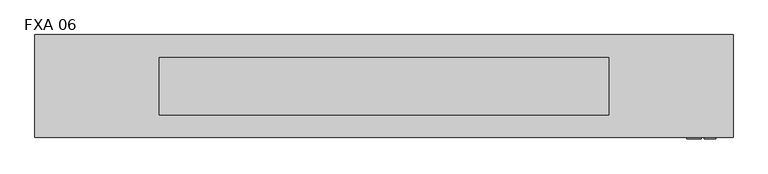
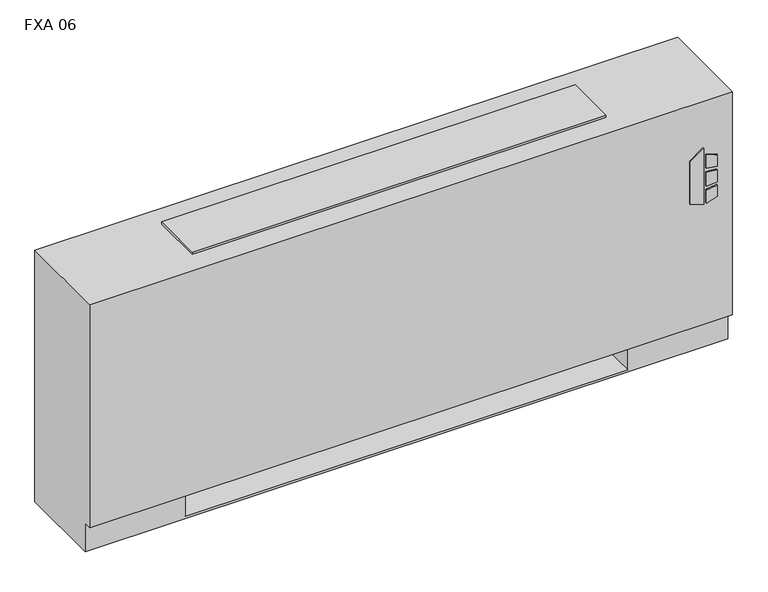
"""IFC4 building model written with IfcOpenShell, lengths in millimetres: proxy geometry, Vertical_Fan_Coil_Unit_-_FXA_-_IEC_-_2-Pipe_TS-FR_RH_2022 : FXA 06."""

from ifc_helpers import new_model, si_unit, point, frame, frame_2d, origin, place, context, project, spatial, polyline, circle_curve, trimmed, segment, composite_curve, outline, extrude, source, transform, mapped, element, save
from ifc_brep_helpers import plane_surface, revolved_surface, advanced_brep


def fxa_06_6068cdc9(model_context):
    return source(origin(), model_context, "Body", "SolidModel", [
        extrude(outline(polyline([(391.6086829, 823.9868862), (381.6606126, 856.1602728), (523.831537, 856.1602728), (500.8095309, 823.9868862), (391.6086829, 823.9868862)])), frame((0.0, 12.7, 0.0), z_axis=(0.0, 1.0, 0.0), x_axis=(0.0, 0.0, 1.0)), (0.0, 0.0, 1.0), 3.175),
        extrude(outline(polyline([(470.6079683, 862.9186058), (467.4055757, 889.0), (496.6344168, 889.0), (504.6988318, 862.9186058), (470.6079683, 862.9186058)])), frame((0.0, 12.7, 0.0), z_axis=(0.0, 1.0, 0.0), x_axis=(0.0, 0.0, 1.0)), (0.0, 0.0, 1.0), 3.175),
        extrude(outline(polyline([(418.7444414, 889.0), (415.0789404, 862.9186058), (381.6606126, 862.9186058), (390.2948498, 889.0), (418.7444414, 889.0)])), frame((0.0, 12.7, 0.0), z_axis=(0.0, 1.0, 0.0), x_axis=(0.0, 0.0, 1.0)), (0.0, 0.0, 1.0), 3.175),
        extrude(outline(polyline([(458.0596028, 889.0), (460.3414292, 862.9186058), (424.4038806, 862.9186058), (427.1451456, 889.0), (458.0596028, 889.0)])), frame((0.0, 12.7, 0.0), z_axis=(0.0, 1.0, 0.0), x_axis=(0.0, 0.0, 1.0)), (0.0, 0.0, 1.0), 3.175),
        extrude(outline(polyline([(-501.65, 81.534), (-501.65, 223.266), (-381.0, 223.266), (-381.0, 81.534), (-501.65, 81.534)])), frame((0.0, 0.0, 327.025), z_axis=(0.0, 0.0, 1.0), x_axis=(1.0, 0.0, 0.0)), (0.0, 0.0, 1.0), 260.35),
        extrude(outline(composite_curve([segment(trimmed(circle_curve(frame_2d((749.3, 130.175)), 9.525), [point((739.775, 130.175))], [point((758.825, 130.175))], False, "CARTESIAN"), True, "CONTINUOUS"), segment(trimmed(circle_curve(frame_2d((749.3, 130.175)), 9.525), [point((758.825, 130.175))], [point((739.775, 130.175))], False, "CARTESIAN"), True, "CONTINUOUS")], self_intersect=False)), frame((0.0, 0.0, 101.6), z_axis=(0.0, 0.0, 1.0), x_axis=(1.0, 0.0, 0.0)), (0.0, 0.0, 1.0), 25.4),
        extrude(outline(polyline([(844.55, 196.85), (844.55, 63.5), (685.8, 63.5), (685.8, 196.85), (844.55, 196.85)])), frame((0.0, 0.0, 127.0), z_axis=(0.0, 0.0, 1.0), x_axis=(1.0, 0.0, 0.0)), (0.0, 0.0, 1.0), 50.8),
        extrude(outline(composite_curve([segment(trimmed(circle_curve(frame_2d((93.1926, 485.5972)), 7.9375), [point((93.1926, 493.5347))], [point((93.1926, 477.6597))], False, "CARTESIAN"), True, "CONTINUOUS"), segment(trimmed(circle_curve(frame_2d((93.1926, 485.5972)), 7.9375), [point((93.1926, 477.6597))], [point((93.1926, 493.5347))], False, "CARTESIAN"), True, "CONTINUOUS")], self_intersect=False)), frame((685.8, 0.0, 0.0), z_axis=(1.0, 0.0, 0.0), x_axis=(0.0, 1.0, 0.0)), (0.0, 0.0, 1.0), 50.8),
        extrude(outline(composite_curve([segment(trimmed(circle_curve(frame_2d((141.3002, 458.9526)), 7.9375), [point((141.3002, 466.8901))], [point((141.3002, 451.0151))], False, "CARTESIAN"), True, "CONTINUOUS"), segment(trimmed(circle_curve(frame_2d((141.3002, 458.9526)), 7.9375), [point((141.3002, 451.0151))], [point((141.3002, 466.8901))], False, "CARTESIAN"), True, "CONTINUOUS")], self_intersect=False)), frame((685.8, 0.0, 0.0), z_axis=(1.0, 0.0, 0.0), x_axis=(0.0, 1.0, 0.0)), (0.0, 0.0, 1.0), 50.8),
        advanced_brep(
        [(927.1, 244.475, 641.35), (-622.3, 244.475, 641.35), (-622.3, 15.875, 641.35), (927.1, 15.875, 641.35), (-622.3, 244.475, 0.0), (927.1, 244.475, 0.0), (927.1, 34.925, 0.0), (-622.3, 34.925, 0.0), (685.8, 244.475, 73.025), (914.4, 244.475, 73.025), (914.4, 244.475, 628.65), (685.8, 244.475, 628.65), (685.8, 244.475, 414.8650565), (714.375, 244.475, 414.8650565), (714.375, 244.475, 385.2349435), (685.8, 244.475, 385.2349435), (685.8, 244.475, 287.3375), (714.375, 244.475, 287.3375), (714.375, 244.475, 258.7625), (685.8, 244.475, 258.7625), (685.8, 244.475, 141.2875), (714.375, 244.475, 141.2875), (714.375, 244.475, 112.7125), (685.8, 244.475, 112.7125), (-381.0, 244.475, 628.65), (-609.6, 244.475, 628.65), (-609.6, 244.475, 73.025), (-381.0, 244.475, 73.025), (-381.0, 244.475, 112.7125), (-409.575, 244.475, 112.7125), (-409.575, 244.475, 141.2875), (-381.0, 244.475, 141.2875), (-381.0, 244.475, 258.7625), (-409.575, 244.475, 258.7625), (-409.575, 244.475, 287.3375), (-381.0, 244.475, 287.3375), (-381.0, 244.475, 385.2349435), (-409.575, 244.475, 385.2349435), (-409.575, 244.475, 414.8650565), (-381.0, 244.475, 414.8650565), (704.0626, 244.475, 127.0), (692.9374, 244.475, 127.0), (704.0626, 244.475, 400.05), (692.9374, 244.475, 400.05), (704.0626, 244.475, 273.05), (692.9374, 244.475, 273.05), (-388.1374, 244.475, 127.0), (-399.2626, 244.475, 127.0), (-388.1374, 244.475, 273.05), (-399.2626, 244.475, 273.05), (-388.1374, 244.475, 400.05), (-399.2626, 244.475, 400.05), (-622.3, 34.925, 73.025), (-622.3, 15.875, 73.025), (927.1, 15.875, 73.025), (927.1, 34.925, 73.025), (-381.0, 34.925, 73.025), (-381.0, 219.075, 73.025), (685.8, 219.075, 73.025), (685.8, 34.925, 73.025), (685.8, 34.925, 6.35), (-381.0, 34.925, 6.35), (685.8, 41.275, 628.65), (914.4, 41.275, 628.65), (914.4, 41.275, 73.025), (685.8, 41.275, 73.025), (-381.0, 41.275, 628.65), (-381.0, 41.275, 73.025), (-609.6, 41.275, 73.025), (-609.6, 41.275, 628.65), (685.8, 219.075, 73.025), (685.8, 238.125, 112.7125), (685.8, 238.125, 141.2875), (685.8, 238.125, 258.7625), (685.8, 238.125, 287.3375), (685.8, 238.125, 385.2349435), (685.8, 238.125, 414.8650565), (-381.0, 219.075, 73.025), (-381.0, 238.125, 414.8650565), (-381.0, 238.125, 385.2349435), (-381.0, 238.125, 287.3375), (-381.0, 238.125, 258.7625), (-381.0, 238.125, 141.2875), (-381.0, 238.125, 112.7125), (-381.0, 219.075, 6.35), (685.8, 219.075, 6.35), (714.375, 238.125, 112.7125), (714.375, 238.125, 141.2875), (692.9374, 238.125, 127.0), (704.0626, 238.125, 127.0), (714.375, 238.125, 258.7625), (714.375, 238.125, 287.3375), (692.9374, 238.125, 273.05), (704.0626, 238.125, 273.05), (714.375, 238.125, 385.2349435), (714.375, 238.125, 414.8650565), (692.9374, 238.125, 400.05), (704.0626, 238.125, 400.05), (-409.575, 238.125, 141.2875), (-409.575, 238.125, 112.7125), (-399.2626, 238.125, 127.0), (-388.1374, 238.125, 127.0), (-409.575, 238.125, 287.3375), (-409.575, 238.125, 258.7625), (-399.2626, 238.125, 273.05), (-388.1374, 238.125, 273.05), (-409.575, 238.125, 414.8650565), (-409.575, 238.125, 385.2349435), (-399.2626, 238.125, 400.05), (-388.1374, 238.125, 400.05)],
        [
            (0, 1),
            (1, 2),
            (2, 3),
            (3, 0),
            (4, 5),
            (5, 6),
            (6, 7),
            (7, 4),
            (0, 5),
            (4, 1),
            (8, 9),
            (9, 10),
            (10, 11),
            (11, 12),
            (12, 13),
            (13, 14),
            (14, 15),
            (15, 16),
            (16, 17),
            (17, 18),
            (18, 19),
            (19, 20),
            (20, 21),
            (21, 22),
            (22, 23),
            (23, 8),
            (24, 25),
            (25, 26),
            (26, 27),
            (27, 28),
            (28, 29),
            (29, 30),
            (30, 31),
            (31, 32),
            (32, 33),
            (33, 34),
            (34, 35),
            (35, 36),
            (36, 37),
            (37, 38),
            (38, 39),
            (39, 24),
            (40, 41, circle_curve(frame((698.5, 244.475, 127.0), z_axis=(0.0, -1.0, 0.0), x_axis=(-1.0, 0.0, 0.0)), 5.5626)),
            (41, 40, circle_curve(frame((698.5, 244.475, 127.0), z_axis=(0.0, -1.0, 0.0), x_axis=(-1.0, 0.0, 0.0)), 5.5626)),
            (42, 43, circle_curve(frame((698.5, 244.475, 400.05), z_axis=(0.0, -1.0, 0.0), x_axis=(-1.0, 0.0, 0.0)), 5.5626)),
            (43, 42, circle_curve(frame((698.5, 244.475, 400.05), z_axis=(0.0, -1.0, 0.0), x_axis=(-1.0, 0.0, 0.0)), 5.5626)),
            (44, 45, circle_curve(frame((698.5, 244.475, 273.05), z_axis=(0.0, -1.0, 0.0), x_axis=(-1.0, 0.0, 0.0)), 5.5626)),
            (45, 44, circle_curve(frame((698.5, 244.475, 273.05), z_axis=(0.0, -1.0, 0.0), x_axis=(-1.0, 0.0, 0.0)), 5.5626)),
            (46, 47, circle_curve(frame((-393.7, 244.475, 127.0), z_axis=(0.0, -1.0, 0.0), x_axis=(-1.0, 0.0, 0.0)), 5.5626)),
            (47, 46, circle_curve(frame((-393.7, 244.475, 127.0), z_axis=(0.0, -1.0, 0.0), x_axis=(-1.0, 0.0, 0.0)), 5.5626)),
            (48, 49, circle_curve(frame((-393.7, 244.475, 273.05), z_axis=(0.0, -1.0, 0.0), x_axis=(-1.0, 0.0, 0.0)), 5.5626)),
            (49, 48, circle_curve(frame((-393.7, 244.475, 273.05), z_axis=(0.0, -1.0, 0.0), x_axis=(-1.0, 0.0, 0.0)), 5.5626)),
            (50, 51, circle_curve(frame((-393.7, 244.475, 400.05), z_axis=(0.0, -1.0, 0.0), x_axis=(-1.0, 0.0, 0.0)), 5.5626)),
            (51, 50, circle_curve(frame((-393.7, 244.475, 400.05), z_axis=(0.0, -1.0, 0.0), x_axis=(-1.0, 0.0, 0.0)), 5.5626)),
            (7, 52),
            (52, 53),
            (53, 2),
            (53, 54),
            (54, 3),
            (54, 55),
            (55, 6),
            (52, 56),
            (56, 57),
            (57, 58),
            (58, 59),
            (59, 55),
            (59, 60),
            (60, 61),
            (61, 56),
            (62, 63),
            (63, 64),
            (64, 65),
            (65, 62),
            (66, 67),
            (67, 68),
            (68, 69),
            (69, 66),
            (65, 70),
            (70, 8),
            (23, 71),
            (71, 72),
            (72, 20),
            (19, 73),
            (73, 74),
            (74, 16),
            (15, 75),
            (75, 76),
            (76, 12),
            (11, 62),
            (64, 9),
            (63, 10),
            (69, 25),
            (24, 66),
            (68, 26),
            (67, 77),
            (77, 27),
            (39, 78),
            (78, 79),
            (79, 36),
            (35, 80),
            (80, 81),
            (81, 32),
            (31, 82),
            (82, 83),
            (83, 28),
            (57, 84),
            (84, 85),
            (85, 58),
            (85, 60),
            (84, 61),
            (71, 86),
            (86, 87),
            (87, 72),
            (88, 89, circle_curve(frame((698.5, 238.125, 127.0), z_axis=(0.0, 1.0, 0.0), x_axis=(-1.0, 0.0, 0.0)), 5.5626)),
            (89, 88, circle_curve(frame((698.5, 238.125, 127.0), z_axis=(0.0, 1.0, 0.0), x_axis=(-1.0, 0.0, 0.0)), 5.5626)),
            (73, 90),
            (90, 91),
            (91, 74),
            (92, 93, circle_curve(frame((698.5, 238.125, 273.05), z_axis=(0.0, 1.0, 0.0), x_axis=(-1.0, 0.0, 0.0)), 5.5626)),
            (93, 92, circle_curve(frame((698.5, 238.125, 273.05), z_axis=(0.0, 1.0, 0.0), x_axis=(-1.0, 0.0, 0.0)), 5.5626)),
            (75, 94),
            (94, 95),
            (95, 76),
            (96, 97, circle_curve(frame((698.5, 238.125, 400.05), z_axis=(0.0, 1.0, 0.0), x_axis=(-1.0, 0.0, 0.0)), 5.5626)),
            (97, 96, circle_curve(frame((698.5, 238.125, 400.05), z_axis=(0.0, 1.0, 0.0), x_axis=(-1.0, 0.0, 0.0)), 5.5626)),
            (98, 99),
            (99, 83),
            (82, 98),
            (100, 101, circle_curve(frame((-393.7, 238.125, 127.0), z_axis=(0.0, 1.0, 0.0), x_axis=(-1.0, 0.0, 0.0)), 5.5626)),
            (101, 100, circle_curve(frame((-393.7, 238.125, 127.0), z_axis=(0.0, 1.0, 0.0), x_axis=(-1.0, 0.0, 0.0)), 5.5626)),
            (102, 103),
            (103, 81),
            (80, 102),
            (104, 105, circle_curve(frame((-393.7, 238.125, 273.05), z_axis=(0.0, 1.0, 0.0), x_axis=(-1.0, 0.0, 0.0)), 5.5626)),
            (105, 104, circle_curve(frame((-393.7, 238.125, 273.05), z_axis=(0.0, 1.0, 0.0), x_axis=(-1.0, 0.0, 0.0)), 5.5626)),
            (106, 107),
            (107, 79),
            (78, 106),
            (108, 109, circle_curve(frame((-393.7, 238.125, 400.05), z_axis=(0.0, 1.0, 0.0), x_axis=(-1.0, 0.0, 0.0)), 5.5626)),
            (109, 108, circle_curve(frame((-393.7, 238.125, 400.05), z_axis=(0.0, 1.0, 0.0), x_axis=(-1.0, 0.0, 0.0)), 5.5626)),
            (87, 21),
            (86, 22),
            (91, 17),
            (90, 18),
            (95, 13),
            (94, 14),
            (30, 98),
            (99, 29),
            (34, 102),
            (103, 33),
            (38, 106),
            (107, 37),
            (88, 41),
            (40, 89),
            (96, 43),
            (42, 97),
            (92, 45),
            (44, 93),
            (100, 47),
            (46, 101),
            (104, 49),
            (48, 105),
            (108, 51),
            (50, 109),
        ],
        [
            plane_surface(frame((-622.3, 244.475, 641.35), z_axis=(0.0, 0.0, 1.0), x_axis=(-1.0, 0.0, 0.0))),
            plane_surface(frame((-622.3, 244.475, 0.0), z_axis=(0.0, 0.0, -1.0), x_axis=(1.0, 0.0, 0.0))),
            plane_surface(frame((927.1, 244.475, 641.35), z_axis=(0.0, 1.0, 0.0), x_axis=(0.0, 0.0, -1.0))),
            plane_surface(frame((-622.3, 244.475, 641.35), z_axis=(-1.0, 0.0, 0.0), x_axis=(0.0, 0.0, -1.0))),
            plane_surface(frame((-622.3, 15.875, 641.35), z_axis=(0.0, -1.0, 0.0), x_axis=(0.0, 0.0, -1.0))),
            plane_surface(frame((927.1, 15.875, 641.35), z_axis=(1.0, 0.0, 0.0), x_axis=(0.0, 0.0, -1.0))),
            plane_surface(frame((-622.3, 15.875, 73.025), z_axis=(0.0, 0.0, -1.0), x_axis=(1.0, 0.0, 0.0))),
            plane_surface(frame((-622.3, 34.925, 73.025), z_axis=(0.0, -1.0, 0.0), x_axis=(1.0, 0.0, 0.0))),
            plane_surface(frame((685.8, 41.275, 628.65), z_axis=(0.0, 1.0, 0.0), x_axis=(0.0, 0.0, -1.0))),
            plane_surface(frame((685.8, 41.275, 628.65), z_axis=(1.0, 0.0, 0.0), x_axis=(0.0, 1.0, 0.0))),
            plane_surface(frame((685.8, 41.275, 73.025), z_axis=(0.0, 0.0, 1.0), x_axis=(0.0, 1.0, 0.0))),
            plane_surface(frame((914.4, 41.275, 73.025), z_axis=(-1.0, 0.0, 0.0), x_axis=(0.0, 1.0, 0.0))),
            plane_surface(frame((914.4, 41.275, 628.65), z_axis=(0.0, 0.0, -1.0), x_axis=(0.0, 1.0, 0.0))),
            plane_surface(frame((-381.0, 41.275, 628.65), z_axis=(0.0, 0.0, -1.0), x_axis=(0.0, 1.0, 0.0))),
            plane_surface(frame((-609.6, 41.275, 628.65), z_axis=(1.0, 0.0, 0.0), x_axis=(0.0, 1.0, 0.0))),
            plane_surface(frame((-609.6, 41.275, 73.025), z_axis=(0.0, 0.0, 1.0), x_axis=(0.0, 1.0, 0.0))),
            plane_surface(frame((-381.0, 41.275, 73.025), z_axis=(-1.0, 0.0, 0.0), x_axis=(0.0, 1.0, 0.0))),
            plane_surface(frame((685.8, 219.075, 73.025), z_axis=(0.0, -1.0, 0.0), x_axis=(0.0, 0.0, -1.0))),
            plane_surface(frame((685.8, 219.075, 73.025), z_axis=(-1.0, 0.0, 0.0), x_axis=(0.0, -1.0, 0.0))),
            plane_surface(frame((685.8, 219.075, 6.35), z_axis=(0.0, 0.0, 1.0), x_axis=(0.0, -1.0, 0.0))),
            plane_surface(frame((-381.0, 219.075, 6.35), z_axis=(1.0, 0.0, 0.0), x_axis=(0.0, -1.0, 0.0))),
            plane_surface(frame((714.375, 238.125, 141.2875), z_axis=(0.0, -1.0, 0.0), x_axis=(-1.0, 0.0, 0.0))),
            plane_surface(frame((685.8, 244.475, 141.2875), z_axis=(0.0, 0.0, 1.0), x_axis=(0.0, -1.0, 0.0))),
            plane_surface(frame((714.375, 244.475, 141.2875), z_axis=(1.0, 0.0, 0.0), x_axis=(0.0, -1.0, 0.0))),
            plane_surface(frame((714.375, 244.475, 112.7125), z_axis=(0.0, 0.0, -1.0), x_axis=(0.0, -1.0, 0.0))),
            plane_surface(frame((685.8, 244.475, 287.3375), z_axis=(0.0, 0.0, 1.0), x_axis=(0.0, -1.0, 0.0))),
            plane_surface(frame((714.375, 244.475, 287.3375), z_axis=(1.0, 0.0, 0.0), x_axis=(0.0, -1.0, 0.0))),
            plane_surface(frame((714.375, 244.475, 258.7625), z_axis=(0.0, 0.0, -1.0), x_axis=(0.0, -1.0, 0.0))),
            plane_surface(frame((685.8, 244.475, 414.8650565), z_axis=(0.0, 0.0, 1.0), x_axis=(0.0, -1.0, 0.0))),
            plane_surface(frame((714.375, 244.475, 414.8650565), z_axis=(1.0, 0.0, 0.0), x_axis=(0.0, -1.0, 0.0))),
            plane_surface(frame((714.375, 244.475, 385.2349435), z_axis=(0.0, 0.0, -1.0), x_axis=(0.0, -1.0, 0.0))),
            plane_surface(frame((-409.575, 244.475, 141.2875), z_axis=(0.0, 0.0, 1.0), x_axis=(0.0, -1.0, 0.0))),
            plane_surface(frame((-381.0, 244.475, 112.7125), z_axis=(0.0, 0.0, -1.0), x_axis=(0.0, -1.0, 0.0))),
            plane_surface(frame((-409.575, 244.475, 112.7125), z_axis=(-1.0, 0.0, 0.0), x_axis=(0.0, -1.0, 0.0))),
            plane_surface(frame((-409.575, 244.475, 287.3375), z_axis=(0.0, 0.0, 1.0), x_axis=(0.0, -1.0, 0.0))),
            plane_surface(frame((-381.0, 244.475, 258.7625), z_axis=(0.0, 0.0, -1.0), x_axis=(0.0, -1.0, 0.0))),
            plane_surface(frame((-409.575, 244.475, 258.7625), z_axis=(-1.0, 0.0, 0.0), x_axis=(0.0, -1.0, 0.0))),
            plane_surface(frame((-409.575, 244.475, 414.8650565), z_axis=(0.0, 0.0, 1.0), x_axis=(0.0, -1.0, 0.0))),
            plane_surface(frame((-381.0, 244.475, 385.2349435), z_axis=(0.0, 0.0, -1.0), x_axis=(0.0, -1.0, 0.0))),
            plane_surface(frame((-409.575, 244.475, 385.2349435), z_axis=(-1.0, 0.0, 0.0), x_axis=(0.0, -1.0, 0.0))),
            revolved_surface(polyline([(692.9374, 238.125, 127.0), (692.9374, 244.475, 127.0)]), (698.5, 244.475, 127.0), (0.0, -1.0, 0.0)),
            revolved_surface(polyline([(692.9374, 238.125, 400.05), (692.9374, 244.475, 400.05)]), (698.5, 244.475, 400.05), (0.0, -1.0, 0.0)),
            revolved_surface(polyline([(692.9374, 238.125, 273.05), (692.9374, 244.475, 273.05)]), (698.5, 244.475, 273.05), (0.0, -1.0, 0.0)),
            revolved_surface(polyline([(-399.26259999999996, 238.125, 127.0), (-399.26259999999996, 244.475, 127.0)]), (-393.7, 244.475, 127.0), (0.0, -1.0, 0.0)),
            revolved_surface(polyline([(-399.26259999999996, 238.125, 273.05), (-399.26259999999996, 244.475, 273.05)]), (-393.7, 244.475, 273.05), (0.0, -1.0, 0.0)),
            revolved_surface(polyline([(-399.26259999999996, 238.125, 400.05), (-399.26259999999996, 244.475, 400.05)]), (-393.7, 244.475, 400.05), (0.0, -1.0, 0.0)),
        ],
        [
            (0, [[1, 2, 3, 4]]),
            (1, [[5, 6, 7, 8]]),
            (2, [[-1, 9, -5, 10], [11, 12, 13, 14, 15, 16, 17, 18, 19, 20, 21, 22, 23, 24, 25, 26], [27, 28, 29, 30, 31, 32, 33, 34, 35, 36, 37, 38, 39, 40, 41, 42], [43, 44], [45, 46], [47, 48], [49, 50], [51, 52], [53, 54]]),
            (3, [[-2, -10, -8, 55, 56, 57]]),
            (4, [[-3, -57, 58, 59]]),
            (5, [[-4, -59, 60, 61, -6, -9]]),
            (6, [[-56, 62, 63, 64, 65, 66, -60, -58]]),
            (7, [[-7, -61, -66, 67, 68, 69, -62, -55]]),
            (8, [[70, 71, 72, 73]]),
            (8, [[74, 75, 76, 77]]),
            (9, [[-73, 78, 79, -26, 80, 81, 82, -22, 83, 84, 85, -18, 86, 87, 88, -14, 89]]),
            (10, [[-72, 90, -11, -79, -78]]),
            (11, [[-71, 91, -12, -90]]),
            (12, [[-70, -89, -13, -91]]),
            (13, [[-77, 92, -27, 93]]),
            (14, [[-76, 94, -28, -92]]),
            (15, [[-75, 95, 96, -29, -94]]),
            (16, [[-74, -93, -42, 97, 98, 99, -38, 100, 101, 102, -34, 103, 104, 105, -30, -96, -95]]),
            (17, [[-64, 106, 107, 108]]),
            (18, [[-108, 109, -67, -65]]),
            (19, [[-107, 110, -68, -109]]),
            (20, [[-106, -63, -69, -110]]),
            (21, [[111, 112, 113, -81], [114, 115]]),
            (21, [[116, 117, 118, -84], [119, 120]]),
            (21, [[121, 122, 123, -87], [124, 125]]),
            (21, [[126, 127, -104, 128], [129, 130]]),
            (21, [[131, 132, -101, 133], [134, 135]]),
            (21, [[136, 137, -98, 138], [139, 140]]),
            (22, [[-113, 141, -23, -82]]),
            (23, [[-112, 142, -24, -141]]),
            (24, [[-111, -80, -25, -142]]),
            (25, [[-118, 143, -19, -85]]),
            (26, [[-117, 144, -20, -143]]),
            (27, [[-116, -83, -21, -144]]),
            (28, [[-123, 145, -15, -88]]),
            (29, [[-122, 146, -16, -145]]),
            (30, [[-121, -86, -17, -146]]),
            (31, [[-128, -103, -33, 147]]),
            (32, [[-127, 148, -31, -105]]),
            (33, [[-126, -147, -32, -148]]),
            (34, [[-133, -100, -37, 149]]),
            (35, [[-132, 150, -35, -102]]),
            (36, [[-131, -149, -36, -150]]),
            (37, [[-138, -97, -41, 151]]),
            (38, [[-137, 152, -39, -99]]),
            (39, [[-136, -151, -40, -152]]),
            (40, [[153, -43, 154, -114]]),
            (40, [[-153, -115, -154, -44]]),
            (41, [[155, -45, 156, -124]]),
            (41, [[-155, -125, -156, -46]]),
            (42, [[157, -47, 158, -119]]),
            (42, [[-157, -120, -158, -48]]),
            (43, [[159, -49, 160, -129]]),
            (43, [[-159, -130, -160, -50]]),
            (44, [[161, -51, 162, -134]]),
            (44, [[-161, -135, -162, -52]]),
            (45, [[163, -53, 164, -139]]),
            (45, [[-163, -140, -164, -54]]),
        ],
    ),
        extrude(outline(polyline([(650.875, 193.675), (650.875, 66.675), (-346.075, 66.675), (-346.075, 193.675), (650.875, 193.675)])), frame((0.0, 0.0, 641.35), z_axis=(0.0, 0.0, 1.0), x_axis=(1.0, 0.0, 0.0)), (0.0, 0.0, 1.0), 6.35),
    ])


if __name__ == "__main__":
    model = new_model("IFC4")
    model_context = context("Model", 3, world=origin())
    ifc_project = project(units=[si_unit("LENGTHUNIT", "METRE", prefix="MILLI")], contexts=[model_context])
    site = spatial("IfcSite", under=ifc_project)
    building = spatial("IfcBuilding", under=site)
    placement = place(None, origin())
    fxa_06_shape = fxa_06_6068cdc9(model_context)
    element("IfcBuildingElementProxy", 1, Name="Vertical_Fan_Coil_Unit_-_FXA_-_IEC_-_2-Pipe_TS-FR_RH_2022 : FXA 06", ObjectType="Vertical_Fan_Coil_Unit_-_FXA_-_IEC_-_2-Pipe_TS-FR_RH_2022 : FXA 06", at=placement, inside=building, context=model_context, shape_type="MappedRepresentation", body=[
        mapped(fxa_06_shape, transform((0.0, 0.0, 0.0), x_axis=(1.0, 0.0, 0.0), y_axis=(0.0, 1.0, 0.0), z_axis=(0.0, 0.0, 1.0))),
    ])
    save(model, "model.ifc")
